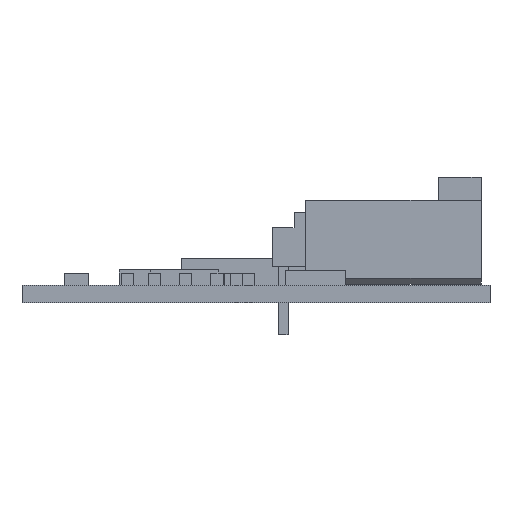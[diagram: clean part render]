
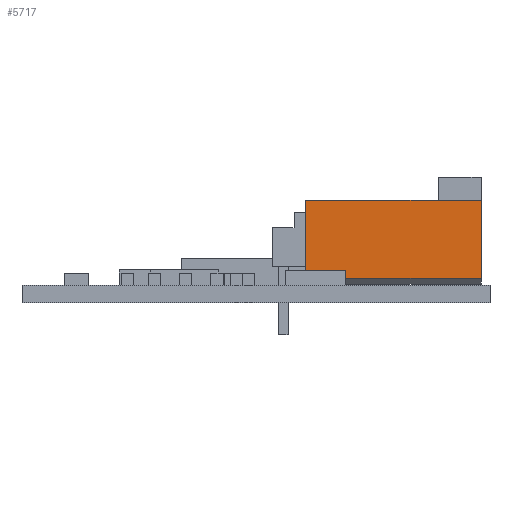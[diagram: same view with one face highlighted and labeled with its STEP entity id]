
A CAD part, front view. The second image highlights one B-rep face of the part: STEP entity #5717.
In plain terms, the highlighted planar face has unit normal (0, -1, 0) as drawn and (-1, 0, 0) by its records, which use the part's own axes.
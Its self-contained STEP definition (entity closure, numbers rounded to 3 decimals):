
#1240 = VERTEX_POINT('',#1241);
#1241 = CARTESIAN_POINT('',(-6.35,-2.54,-5.715));
#1250 = PLANE('',#1251);
#1251 = AXIS2_PLACEMENT_3D('',#1252,#1253,#1254);
#1252 = CARTESIAN_POINT('',(0.,0.,-5.715));
#1253 = DIRECTION('',(0.,0.,1.));
#1254 = DIRECTION('',(1.,0.,0.));
#1262 = PLANE('',#1263);
#1263 = AXIS2_PLACEMENT_3D('',#1264,#1265,#1266);
#1264 = CARTESIAN_POINT('',(-6.35,-2.54,-5.715));
#1265 = DIRECTION('',(0.,-1.,0.));
#1266 = DIRECTION('',(1.,0.,0.));
#1471 = VERTEX_POINT('',#1472);
#1472 = CARTESIAN_POINT('',(-6.35,2.54,-5.715));
#1486 = PLANE('',#1487);
#1487 = AXIS2_PLACEMENT_3D('',#1488,#1489,#1490);
#1488 = CARTESIAN_POINT('',(6.35,2.54,-5.715));
#1489 = DIRECTION('',(0.,1.,0.));
#1490 = DIRECTION('',(-1.,0.,0.));
#1498 = EDGE_CURVE('',#1471,#1240,#1499,.T.);
#1499 = SURFACE_CURVE('',#1500,(#1504,#1511),.PCURVE_S1.);
#1500 = LINE('',#1501,#1502);
#1501 = CARTESIAN_POINT('',(-6.35,2.54,-5.715));
#1502 = VECTOR('',#1503,1.);
#1503 = DIRECTION('',(0.,-1.,0.));
#1504 = PCURVE('',#1250,#1505);
#1505 = DEFINITIONAL_REPRESENTATION('',(#1506),#1510);
#1506 = LINE('',#1507,#1508);
#1507 = CARTESIAN_POINT('',(-6.35,2.54));
#1508 = VECTOR('',#1509,1.);
#1509 = DIRECTION('',(0.,-1.));
#1510 = ( GEOMETRIC_REPRESENTATION_CONTEXT(2) 
PARAMETRIC_REPRESENTATION_CONTEXT() REPRESENTATION_CONTEXT('2D SPACE',''
  ) );
#1511 = PCURVE('',#1512,#1517);
#1512 = PLANE('',#1513);
#1513 = AXIS2_PLACEMENT_3D('',#1514,#1515,#1516);
#1514 = CARTESIAN_POINT('',(-6.35,2.54,-5.715));
#1515 = DIRECTION('',(-1.,0.,0.));
#1516 = DIRECTION('',(0.,-1.,0.));
#1517 = DEFINITIONAL_REPRESENTATION('',(#1518),#1522);
#1518 = LINE('',#1519,#1520);
#1519 = CARTESIAN_POINT('',(0.,0.));
#1520 = VECTOR('',#1521,1.);
#1521 = DIRECTION('',(1.,0.));
#1522 = ( GEOMETRIC_REPRESENTATION_CONTEXT(2) 
PARAMETRIC_REPRESENTATION_CONTEXT() REPRESENTATION_CONTEXT('2D SPACE',''
  ) );
#1680 = PLANE('',#1681);
#1681 = AXIS2_PLACEMENT_3D('',#1682,#1683,#1684);
#1682 = CARTESIAN_POINT('',(0.,0.,5.715));
#1683 = DIRECTION('',(0.,0.,1.));
#1684 = DIRECTION('',(1.,0.,0.));
#1741 = EDGE_CURVE('',#1240,#1742,#1744,.T.);
#1742 = VERTEX_POINT('',#1743);
#1743 = CARTESIAN_POINT('',(-6.35,-2.54,5.715));
#1744 = SURFACE_CURVE('',#1745,(#1749,#1756),.PCURVE_S1.);
#1745 = LINE('',#1746,#1747);
#1746 = CARTESIAN_POINT('',(-6.35,-2.54,-5.715));
#1747 = VECTOR('',#1748,1.);
#1748 = DIRECTION('',(0.,0.,1.));
#1749 = PCURVE('',#1262,#1750);
#1750 = DEFINITIONAL_REPRESENTATION('',(#1751),#1755);
#1751 = LINE('',#1752,#1753);
#1752 = CARTESIAN_POINT('',(0.,0.));
#1753 = VECTOR('',#1754,1.);
#1754 = DIRECTION('',(0.,1.));
#1755 = ( GEOMETRIC_REPRESENTATION_CONTEXT(2) 
PARAMETRIC_REPRESENTATION_CONTEXT() REPRESENTATION_CONTEXT('2D SPACE',''
  ) );
#1756 = PCURVE('',#1512,#1757);
#1757 = DEFINITIONAL_REPRESENTATION('',(#1758),#1762);
#1758 = LINE('',#1759,#1760);
#1759 = CARTESIAN_POINT('',(5.08,0.));
#1760 = VECTOR('',#1761,1.);
#1761 = DIRECTION('',(0.,1.));
#1762 = ( GEOMETRIC_REPRESENTATION_CONTEXT(2) 
PARAMETRIC_REPRESENTATION_CONTEXT() REPRESENTATION_CONTEXT('2D SPACE',''
  ) );
#2567 = EDGE_CURVE('',#2568,#1742,#2570,.T.);
#2568 = VERTEX_POINT('',#2569);
#2569 = CARTESIAN_POINT('',(-6.35,2.54,5.715));
#2570 = SURFACE_CURVE('',#2571,(#2575,#2582),.PCURVE_S1.);
#2571 = LINE('',#2572,#2573);
#2572 = CARTESIAN_POINT('',(-6.35,2.54,5.715));
#2573 = VECTOR('',#2574,1.);
#2574 = DIRECTION('',(0.,-1.,0.));
#2575 = PCURVE('',#1680,#2576);
#2576 = DEFINITIONAL_REPRESENTATION('',(#2577),#2581);
#2577 = LINE('',#2578,#2579);
#2578 = CARTESIAN_POINT('',(-6.35,2.54));
#2579 = VECTOR('',#2580,1.);
#2580 = DIRECTION('',(0.,-1.));
#2581 = ( GEOMETRIC_REPRESENTATION_CONTEXT(2) 
PARAMETRIC_REPRESENTATION_CONTEXT() REPRESENTATION_CONTEXT('2D SPACE',''
  ) );
#2582 = PCURVE('',#1512,#2583);
#2583 = DEFINITIONAL_REPRESENTATION('',(#2584),#2588);
#2584 = LINE('',#2585,#2586);
#2585 = CARTESIAN_POINT('',(0.,11.43));
#2586 = VECTOR('',#2587,1.);
#2587 = DIRECTION('',(1.,0.));
#2588 = ( GEOMETRIC_REPRESENTATION_CONTEXT(2) 
PARAMETRIC_REPRESENTATION_CONTEXT() REPRESENTATION_CONTEXT('2D SPACE',''
  ) );
#4283 = EDGE_CURVE('',#1471,#2568,#4284,.T.);
#4284 = SURFACE_CURVE('',#4285,(#4289,#4296),.PCURVE_S1.);
#4285 = LINE('',#4286,#4287);
#4286 = CARTESIAN_POINT('',(-6.35,2.54,-5.715));
#4287 = VECTOR('',#4288,1.);
#4288 = DIRECTION('',(0.,0.,1.));
#4289 = PCURVE('',#1486,#4290);
#4290 = DEFINITIONAL_REPRESENTATION('',(#4291),#4295);
#4291 = LINE('',#4292,#4293);
#4292 = CARTESIAN_POINT('',(12.7,0.));
#4293 = VECTOR('',#4294,1.);
#4294 = DIRECTION('',(0.,1.));
#4295 = ( GEOMETRIC_REPRESENTATION_CONTEXT(2) 
PARAMETRIC_REPRESENTATION_CONTEXT() REPRESENTATION_CONTEXT('2D SPACE',''
  ) );
#4296 = PCURVE('',#1512,#4297);
#4297 = DEFINITIONAL_REPRESENTATION('',(#4298),#4302);
#4298 = LINE('',#4299,#4300);
#4299 = CARTESIAN_POINT('',(0.,0.));
#4300 = VECTOR('',#4301,1.);
#4301 = DIRECTION('',(0.,1.));
#4302 = ( GEOMETRIC_REPRESENTATION_CONTEXT(2) 
PARAMETRIC_REPRESENTATION_CONTEXT() REPRESENTATION_CONTEXT('2D SPACE',''
  ) );
#5717 = ADVANCED_FACE('',(#5718),#1512,.T.);
#5718 = FACE_BOUND('',#5719,.F.);
#5719 = EDGE_LOOP('',(#5720,#5721,#5722,#5723));
#5720 = ORIENTED_EDGE('',*,*,#1498,.F.);
#5721 = ORIENTED_EDGE('',*,*,#4283,.T.);
#5722 = ORIENTED_EDGE('',*,*,#2567,.T.);
#5723 = ORIENTED_EDGE('',*,*,#1741,.F.);
